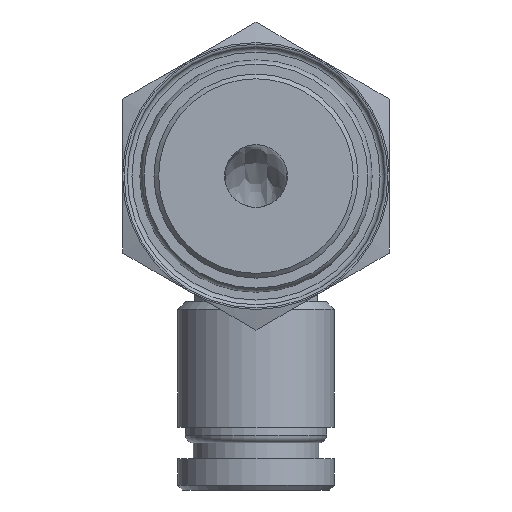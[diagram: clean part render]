
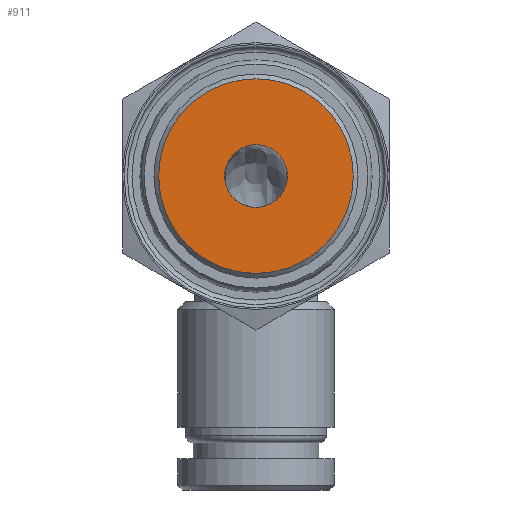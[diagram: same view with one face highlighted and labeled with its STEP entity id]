
A CAD part, front view. The second image highlights one B-rep face of the part: STEP entity #911.
In plain terms, the highlighted planar face has unit normal (0, -1, 0).
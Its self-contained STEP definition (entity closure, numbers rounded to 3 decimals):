
#75=FACE_BOUND('',#192,.T.);
#88=PLANE('',#1067);
#125=FACE_OUTER_BOUND('',#191,.T.);
#191=EDGE_LOOP('',(#658));
#192=EDGE_LOOP('',(#659));
#344=CIRCLE('',#1066,6.2);
#345=CIRCLE('',#1068,2.);
#415=VERTEX_POINT('',#1552);
#416=VERTEX_POINT('',#1556);
#505=EDGE_CURVE('',#415,#415,#344,.T.);
#506=EDGE_CURVE('',#416,#416,#345,.T.);
#658=ORIENTED_EDGE('',*,*,#505,.F.);
#659=ORIENTED_EDGE('',*,*,#506,.T.);
#911=ADVANCED_FACE('',(#125,#75),#88,.T.);
#1066=AXIS2_PLACEMENT_3D('',#1554,#1244,#1245);
#1067=AXIS2_PLACEMENT_3D('',#1555,#1246,#1247);
#1068=AXIS2_PLACEMENT_3D('',#1557,#1248,#1249);
#1244=DIRECTION('center_axis',(0.,1.,0.));
#1245=DIRECTION('ref_axis',(0.,0.,1.));
#1246=DIRECTION('center_axis',(0.,-1.,0.));
#1247=DIRECTION('ref_axis',(0.,0.,-1.));
#1248=DIRECTION('center_axis',(0.,1.,0.));
#1249=DIRECTION('ref_axis',(1.,0.,0.));
#1552=CARTESIAN_POINT('',(0.,-13.5,-6.2));
#1554=CARTESIAN_POINT('Origin',(0.,-13.5,0.));
#1555=CARTESIAN_POINT('Origin',(0.,-13.5,-6.5));
#1556=CARTESIAN_POINT('',(-2.,-13.5,0.));
#1557=CARTESIAN_POINT('Origin',(0.,-13.5,0.));
